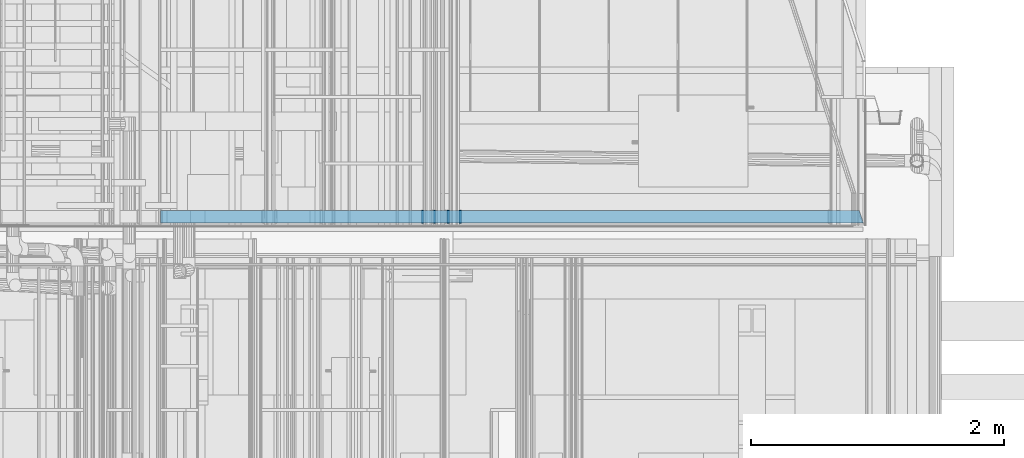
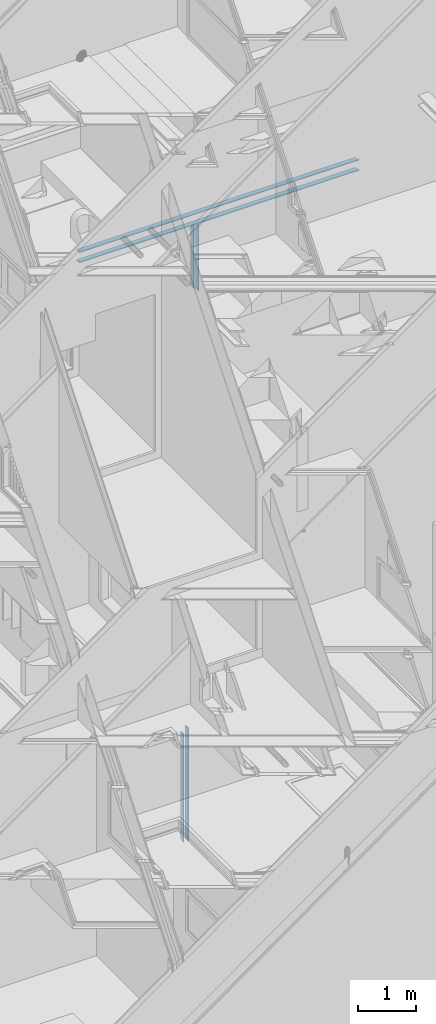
# One storey, part 159 of 583: 6 building element parts, 3 elements without a shape of their own.
"""IFC2X3 building model written with IfcOpenShell, lengths in metres."""

from ifc_helpers import new_model, entity, si_unit, converted_unit, derived_unit, money_unit, direction, frame, frame_2d, origin_with_axes, place, context, subcontext, project, spatial, polyline, rectangle, outline, extrude, clip, halfspace, material, type_object, element, aggregate, save


model = new_model("IFC2X3")

# Units and contexts
model_context = context("Model", 3, precision=1e-05, world=origin_with_axes(), true_north=direction((0.0, 1.0)))
body_context = subcontext(model_context, "Body", "Model", "MODEL_VIEW", scale=1.0)
ifc_project = project(units=[si_unit("LENGTHUNIT", "METRE"), si_unit("AREAUNIT", "SQUARE_METRE"), si_unit("VOLUMEUNIT", "CUBIC_METRE"), si_unit("ABSORBEDDOSEUNIT", "GRAY"), si_unit("AMOUNTOFSUBSTANCEUNIT", "MOLE"), si_unit("DOSEEQUIVALENTUNIT", "SIEVERT"), si_unit("ELECTRICCAPACITANCEUNIT", "FARAD"), si_unit("ELECTRICCHARGEUNIT", "COULOMB"), si_unit("ELECTRICCONDUCTANCEUNIT", "SIEMENS"), si_unit("ELECTRICCURRENTUNIT", "AMPERE"), si_unit("ELECTRICRESISTANCEUNIT", "OHM"), si_unit("ELECTRICVOLTAGEUNIT", "VOLT"), si_unit("ENERGYUNIT", "JOULE"), si_unit("FORCEUNIT", "NEWTON"), si_unit("FREQUENCYUNIT", "HERTZ"), si_unit("ILLUMINANCEUNIT", "LUX"), si_unit("INDUCTANCEUNIT", "HENRY"), si_unit("LUMINOUSFLUXUNIT", "LUMEN"), si_unit("LUMINOUSINTENSITYUNIT", "CANDELA"), si_unit("MAGNETICFLUXDENSITYUNIT", "TESLA"), si_unit("MAGNETICFLUXUNIT", "WEBER"), si_unit("MASSUNIT", "GRAM"), converted_unit("PLANEANGLEUNIT", "degree", entity("IfcReal", 0.0174532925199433), si_unit("PLANEANGLEUNIT", "RADIAN"), dimensions=[0, 0, 0, 0, 0, 0, 0]), si_unit("POWERUNIT", "WATT"), si_unit("PRESSUREUNIT", "PASCAL"), si_unit("RADIOACTIVITYUNIT", "BECQUEREL"), si_unit("SOLIDANGLEUNIT", "STERADIAN"), si_unit("THERMODYNAMICTEMPERATUREUNIT", "KELVIN"), si_unit("TIMEUNIT", "SECOND"), derived_unit("ACCELERATIONUNIT", [(si_unit("LENGTHUNIT", "METRE"), 1), (si_unit("TIMEUNIT", "SECOND"), -2)]), derived_unit("ANGULARVELOCITYUNIT", [(converted_unit("PLANEANGLEUNIT", "degree", entity("IfcReal", 0.0174532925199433), si_unit("PLANEANGLEUNIT", "RADIAN"), dimensions=[0, 0, 0, 0, 0, 0, 0]), 1), (si_unit("TIMEUNIT", "SECOND"), -1)]), derived_unit("CURVATUREUNIT", [(converted_unit("PLANEANGLEUNIT", "degree", entity("IfcReal", 0.0174532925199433), si_unit("PLANEANGLEUNIT", "RADIAN"), dimensions=[0, 0, 0, 0, 0, 0, 0]), 1), (si_unit("LENGTHUNIT", "METRE"), -1)]), derived_unit("DYNAMICVISCOSITYUNIT", [(si_unit("PRESSUREUNIT", "PASCAL"), 1), (si_unit("TIMEUNIT", "SECOND"), 1)]), derived_unit("HEATFLUXDENSITYUNIT", [(si_unit("POWERUNIT", "WATT"), 1), (si_unit("LENGTHUNIT", "METRE"), -2)]), derived_unit("HEATINGVALUEUNIT", [(si_unit("ENERGYUNIT", "JOULE"), 1), (si_unit("MASSUNIT", "GRAM"), -1)]), derived_unit("INTEGERCOUNTRATEUNIT", [(si_unit("TIMEUNIT", "SECOND"), -1)]), derived_unit("IONCONCENTRATIONUNIT", [(si_unit("MASSUNIT", "GRAM"), 1), (si_unit("VOLUMEUNIT", "CUBIC_METRE"), -1)]), derived_unit("ISOTHERMALMOISTURECAPACITYUNIT", [(si_unit("VOLUMEUNIT", "CUBIC_METRE"), 1), (si_unit("MASSUNIT", "GRAM"), -1)]), derived_unit("KINEMATICVISCOSITYUNIT", [(si_unit("AREAUNIT", "SQUARE_METRE"), 1), (si_unit("TIMEUNIT", "SECOND"), -1)]), derived_unit("LINEARFORCEUNIT", [(si_unit("FORCEUNIT", "NEWTON"), 1), (si_unit("LENGTHUNIT", "METRE"), -1)]), derived_unit("LINEARMOMENTUNIT", [(si_unit("FORCEUNIT", "NEWTON"), 1), (si_unit("LENGTHUNIT", "METRE"), -1)]), derived_unit("LINEARSTIFFNESSUNIT", [(si_unit("FORCEUNIT", "NEWTON"), 1), (si_unit("LENGTHUNIT", "METRE"), -1)]), derived_unit("LINEARVELOCITYUNIT", [(si_unit("LENGTHUNIT", "METRE"), 1), (si_unit("TIMEUNIT", "SECOND"), -1)]), derived_unit("LUMINOUSINTENSITYDISTRIBUTIONUNIT", [(si_unit("LUMINOUSINTENSITYUNIT", "CANDELA"), 1), (si_unit("LUMINOUSFLUXUNIT", "LUMEN"), -1)]), derived_unit("MASSDENSITYUNIT", [(si_unit("MASSUNIT", "GRAM"), 1), (si_unit("VOLUMEUNIT", "CUBIC_METRE"), -1)]), derived_unit("MASSFLOWRATEUNIT", [(si_unit("MASSUNIT", "GRAM"), 1), (si_unit("TIMEUNIT", "SECOND"), -1)]), derived_unit("MASSPERLENGTHUNIT", [(si_unit("MASSUNIT", "GRAM"), 1), (si_unit("LENGTHUNIT", "METRE"), -1)]), derived_unit("MODULUSOFELASTICITYUNIT", [(si_unit("FORCEUNIT", "NEWTON"), 1), (si_unit("AREAUNIT", "SQUARE_METRE"), -1)]), derived_unit("MODULUSOFLINEARSUBGRADEREACTIONUNIT", [(si_unit("FORCEUNIT", "NEWTON"), 1), (si_unit("LENGTHUNIT", "METRE"), -2)]), derived_unit("MODULUSOFROTATIONALSUBGRADEREACTIONUNIT", [(si_unit("FORCEUNIT", "NEWTON"), 1), (si_unit("LENGTHUNIT", "METRE"), 1)]), derived_unit("MODULUSOFSUBGRADEREACTIONUNIT", [(si_unit("FORCEUNIT", "NEWTON"), 1), (si_unit("VOLUMEUNIT", "CUBIC_METRE"), -1)]), derived_unit("MOISTUREDIFFUSIVITYUNIT", [(si_unit("VOLUMEUNIT", "CUBIC_METRE"), 1), (si_unit("TIMEUNIT", "SECOND"), -1)]), derived_unit("MOLECULARWEIGHTUNIT", [(si_unit("MASSUNIT", "GRAM"), 1), (si_unit("AMOUNTOFSUBSTANCEUNIT", "MOLE"), -1)]), derived_unit("PLANARFORCEUNIT", [(si_unit("FORCEUNIT", "NEWTON"), 1), (si_unit("LENGTHUNIT", "METRE"), -2)]), derived_unit("ROTATIONALFREQUENCYUNIT", [(si_unit("TIMEUNIT", "SECOND"), -1)]), derived_unit("ROTATIONALMASSUNIT", [(si_unit("MASSUNIT", "GRAM"), 1), (si_unit("LENGTHUNIT", "METRE"), 2)]), derived_unit("ROTATIONALSTIFFNESSUNIT", [(si_unit("FORCEUNIT", "NEWTON"), 1), (si_unit("LENGTHUNIT", "METRE"), 1), (converted_unit("PLANEANGLEUNIT", "degree", entity("IfcReal", 0.0174532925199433), si_unit("PLANEANGLEUNIT", "RADIAN"), dimensions=[0, 0, 0, 0, 0, 0, 0]), -1)]), derived_unit("SECTIONAREAINTEGRALUNIT", [(si_unit("LENGTHUNIT", "METRE"), 5)]), derived_unit("SECTIONMODULUSUNIT", [(si_unit("LENGTHUNIT", "METRE"), 3)]), derived_unit("SHEARMODULUSUNIT", [(si_unit("FORCEUNIT", "NEWTON"), 1), (si_unit("AREAUNIT", "SQUARE_METRE"), -1)]), derived_unit("SOUNDPOWERUNIT", [(si_unit("ENERGYUNIT", "JOULE"), 1), (si_unit("TIMEUNIT", "SECOND"), -1)]), derived_unit("SPECIFICHEATCAPACITYUNIT", [(si_unit("FORCEUNIT", "NEWTON"), 1), (si_unit("MASSUNIT", "GRAM"), -1), (si_unit("THERMODYNAMICTEMPERATUREUNIT", "KELVIN"), -1)]), derived_unit("TEMPERATUREGRADIENTUNIT", [(si_unit("THERMODYNAMICTEMPERATUREUNIT", "KELVIN"), 1), (si_unit("LENGTHUNIT", "METRE"), -1)]), derived_unit("THERMALADMITTANCEUNIT", [(si_unit("POWERUNIT", "WATT"), 1), (si_unit("AREAUNIT", "SQUARE_METRE"), -1), (si_unit("THERMODYNAMICTEMPERATUREUNIT", "KELVIN"), -1)]), derived_unit("THERMALCONDUCTANCEUNIT", [(si_unit("POWERUNIT", "WATT"), 1), (si_unit("LENGTHUNIT", "METRE"), -1), (si_unit("THERMODYNAMICTEMPERATUREUNIT", "KELVIN"), -1)]), derived_unit("THERMALEXPANSIONCOEFFICIENTUNIT", [(si_unit("THERMODYNAMICTEMPERATUREUNIT", "KELVIN"), -1)]), derived_unit("THERMALRESISTANCEUNIT", [(si_unit("AREAUNIT", "SQUARE_METRE"), 1), (si_unit("POWERUNIT", "WATT"), -1)]), derived_unit("THERMALTRANSMITTANCEUNIT", [(si_unit("POWERUNIT", "WATT"), 1), (si_unit("AREAUNIT", "SQUARE_METRE"), -1), (si_unit("THERMODYNAMICTEMPERATUREUNIT", "KELVIN"), -1)]), derived_unit("TORQUEUNIT", [(si_unit("FORCEUNIT", "NEWTON"), 1), (si_unit("LENGTHUNIT", "METRE"), 1)]), derived_unit("VAPORPERMEABILITYUNIT", [(si_unit("MASSUNIT", "GRAM"), 1), (si_unit("TIMEUNIT", "SECOND"), -1)]), derived_unit("VOLUMETRICFLOWRATEUNIT", [(si_unit("VOLUMEUNIT", "CUBIC_METRE"), 1), (si_unit("TIMEUNIT", "SECOND"), -1)]), derived_unit("WARPINGCONSTANTUNIT", [(si_unit("LENGTHUNIT", "METRE"), 6)]), derived_unit("WARPINGMOMENTUNIT", [(si_unit("FORCEUNIT", "NEWTON"), 1), (si_unit("LENGTHUNIT", "METRE"), 2)]), money_unit("GBP")], contexts=[model_context])

# Site, building, storey
site_placement = place(None, origin_with_axes())
site = spatial("IfcSite", under=ifc_project, at=site_placement, Name="Site", CompositionType="ELEMENT")
building_placement = place(site_placement, origin_with_axes())
building = spatial("IfcBuilding", under=site, at=building_placement, Name="Building01", CompositionType="ELEMENT")
storey_placement = place(building_placement, frame((0.0, 0.0, 20.78), z_axis=(0.0, 0.0, 1.0), x_axis=(1.0, 0.0, 0.0)))
storey = spatial("IfcBuildingStorey", under=building, at=storey_placement, Name="RL", CompositionType="ELEMENT", Elevation=20.78)

# Wall, building element parts
wall_type_1 = type_object("IfcWallType", Name="SHE_A-Walls_Type05b_Partition_80mm", PredefinedType="NOTDEFINED")
wall_1_placement = place(storey_placement, frame((11.156849, 14.98, -7.33), z_axis=(0.0, 1.0, 0.0), x_axis=(0.0, 0.0, -1.0)))
wall_1 = element("IfcWall", 1, at=wall_1_placement, inside=storey, type_object=wall_type_1, Name="5B", ObjectType="SHE_A-Walls_Type05b_Partition_80mm")
ifc_material = material(Name="A_BSUK_Walls_Timber")
placement_1 = place(wall_1_placement, origin_with_axes())
building_element_part_1 = element("IfcBuildingElementPart", 2, at=placement_1, material=ifc_material, Name="2", context=body_context, shape_type="SweptSolid", body=[
    extrude(outline(polyline([(1.337619, 0.068), (0.015, 0.068), (0.015, 0.053), (1.352619, 0.053), (1.337619, 0.068)])), frame((0.0, 0.0, 0.015), z_axis=(0.0, 0.0, 1.0), x_axis=(1.0, 0.0, 0.0)), (0.0, 0.0, 1.0), 0.1),
])
building_element_part_2 = element("IfcBuildingElementPart", 3, at=placement_1, material=ifc_material, Name="5", context=body_context, shape_type="SweptSolid", body=[
    extrude(outline(polyline([(1.432619, -0.027), (0.015, -0.027), (0.015, -0.042), (1.447619, -0.042), (1.432619, -0.027)])), frame((0.0, 0.0, 0.015), z_axis=(0.0, 0.0, 1.0), x_axis=(1.0, 0.0, 0.0)), (0.0, 0.0, 1.0), 0.1),
])
aggregate(wall_1, [building_element_part_1, building_element_part_2])

wall_type_2 = type_object("IfcWallType", Name="SHE_A-Walls_Type01d_Partywall_200mm_twin", PredefinedType="NOTDEFINED")
wall_2_placement = place(storey_placement, frame((8.82, 14.98, -7.205), z_axis=(0.0, 1.0, 0.0), x_axis=(1.0, 0.0, 0.0)))
wall_2 = element("IfcWall", 4, at=wall_2_placement, inside=storey, type_object=wall_type_2, Name="1D", ObjectType="SHE_A-Walls_Type01d_Partywall_200mm_twin")
placement_2 = place(wall_2_placement, origin_with_axes())
building_element_part_3 = element("IfcBuildingElementPart", 5, at=placement_2, material=ifc_material, Name="7", context=body_context, shape_type="Clipping", body=[
    clip(extrude(rectangle(XDim=5.561784, YDim=0.015, at=frame_2d((2.780892, -0.0825), x_axis=(-1.0, 0.0))), frame((0.0, 0.0, 0.015), z_axis=(0.0, 0.0, 1.0), x_axis=(1.0, 0.0, 0.0)), (0.0, 0.0, 1.0), 0.1), halfspace(frame((5.035089, 0.0, 1.636), z_axis=(-0.95105652, 0.0, -0.30901699), x_axis=(0.0, -1.0, 0.0)), True)),
])
building_element_part_4 = element("IfcBuildingElementPart", 6, at=placement_2, material=ifc_material, Name="8", context=body_context, shape_type="Clipping", body=[
    clip(extrude(rectangle(XDim=5.561784, YDim=0.015, at=frame_2d((2.780892, 0.1325), x_axis=(-1.0, 0.0))), frame((0.0, 0.0, 0.015), z_axis=(0.0, 0.0, 1.0), x_axis=(1.0, 0.0, 0.0)), (0.0, 0.0, 1.0), 0.1), halfspace(frame((5.035089, 0.0, 1.636), z_axis=(-0.95105652, 0.0, -0.30901699), x_axis=(0.0, -1.0, 0.0)), True)),
])
aggregate(wall_2, [building_element_part_3, building_element_part_4])

wall_3_placement = place(storey_placement, frame((10.952915, 14.98, -17.907), z_axis=(0.0, 1.0, 0.0), x_axis=(0.0, 0.0, -1.0)))
wall_3 = element("IfcWall", 7, at=wall_3_placement, inside=storey, type_object=wall_type_1, Name="5B", ObjectType="SHE_A-Walls_Type05b_Partition_80mm")
placement_3 = place(wall_3_placement, origin_with_axes())
building_element_part_5 = element("IfcBuildingElementPart", 8, at=placement_3, material=ifc_material, Name="2", context=body_context, shape_type="Clipping", body=[
    clip(extrude(outline(polyline([(2.34427, 0.068), (0.068, 0.068), (0.053, 0.053), (2.34427, 0.053), (2.34427, 0.068)])), frame((0.0, 0.0, 0.015), z_axis=(0.0, 0.0, 1.0), x_axis=(1.0, 0.0, 0.0)), (0.0, 0.0, 1.0), 0.1), halfspace(frame((2.12482, 0.0, 0.690396), z_axis=(-0.95105652, 0.0, -0.30901699), x_axis=(0.0, -1.0, 0.0)), True)),
])
building_element_part_6 = element("IfcBuildingElementPart", 9, at=placement_3, material=ifc_material, Name="5", context=body_context, shape_type="Clipping", body=[
    clip(extrude(outline(polyline([(2.34427, -0.027), (-0.027, -0.027), (-0.042, -0.042), (2.34427, -0.042), (2.34427, -0.027)])), frame((0.0, 0.0, 0.015), z_axis=(0.0, 0.0, 1.0), x_axis=(1.0, 0.0, 0.0)), (0.0, 0.0, 1.0), 0.1), halfspace(frame((2.12482, 0.0, 0.690396), z_axis=(-0.95105652, 0.0, -0.30901699), x_axis=(0.0, -1.0, 0.0)), True)),
])
aggregate(wall_3, [building_element_part_5, building_element_part_6])

save(model, "model.ifc")
